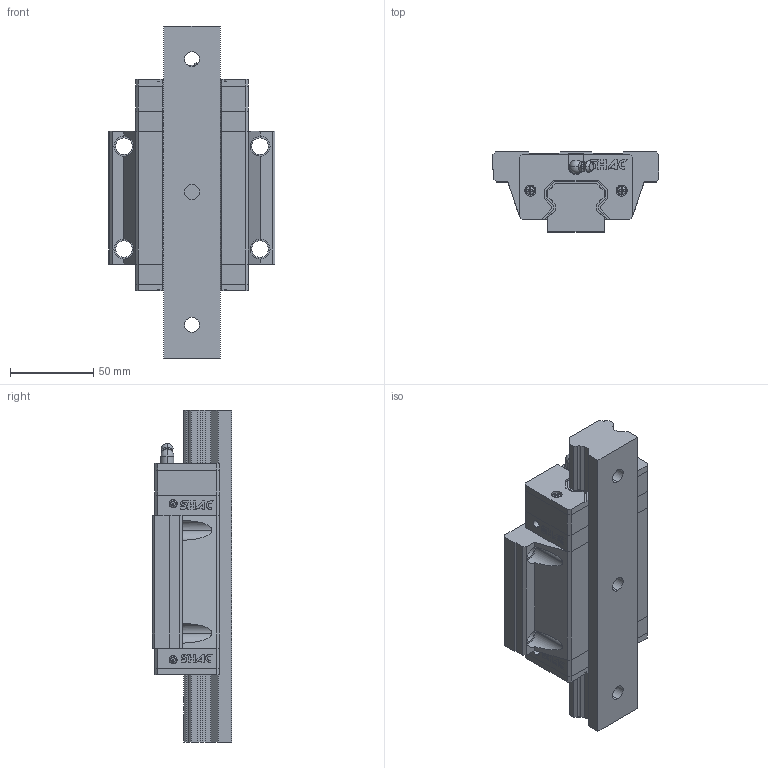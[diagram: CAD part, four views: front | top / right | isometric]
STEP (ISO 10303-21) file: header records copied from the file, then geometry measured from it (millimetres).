
FILE_DESCRIPTION (( 'STEP AP214' ), '1' );
FILE_NAME ('STP_GHW35CC_(E2)自润式_(R)上锁式_刮油片＋防尘条_1_200_200_GHW35CC_GHW35CC.step', '2020-06-27T08:06:46', ( 'IT Division' ), ( 'IT' ), 'SwSTEP 2.0', 'SolidWorks 2016', '' );
FILE_SCHEMA (( 'AUTOMOTIVE_DESIGN' ));
Length unit declared in the file: millimetre
Products named in the file (3): STP_GHW35CC_(E2)自润式_(R)上锁式_刮油片＋防尘条_1_200_200_GHW35CC_GHW35CC; STP_GHW35CC_(E2)自润式_(R)上锁式_刮油片＋防尘条_1_200_200_GHW35CC_GHW35CC_2; STP_GHW35CC_(E2)自润式_(R)上锁式_刮油片＋防尘条_1_200_200_GHW35CC_GHW35CC_1
Assembly tree (2 placements, depth 2):
  STP_GHW35CC_(E2)自润式_(R)上锁式_刮油片＋防尘条_1_200_200_GHW35CC_GHW35CC
    STP_GHW35CC_(E2)自润式_(R)上锁式_刮油片＋防尘条_1_200_200_GHW35CC_GHW35CC_1
    STP_GHW35CC_(E2)自润式_(R)上锁式_刮油片＋防尘条_1_200_200_GHW35CC_GHW35CC_2
Bounding box: 100 x 48 x 200 mm (x, y, z)
Volume: 480462.3 mm3; surface area: 96705.1 mm2
Topology: 8 solids, 8 shells, 853 faces, 2303 edges, 1518 vertices
Faces by surface type: plane 633, cylinder 162, torus 25, cone 23, sphere 10
Entity records: 30624 total; most frequent: CARTESIAN_POINT 4873, ORIENTED_EDGE 4598, DIRECTION 4444, EDGE_CURVE 2299, LINE 1782, VECTOR 1782, VERTEX_POINT 1516, AXIS2_PLACEMENT_3D 1331
